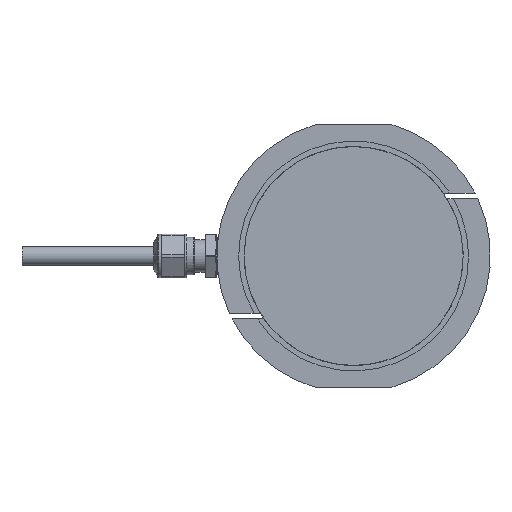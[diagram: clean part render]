
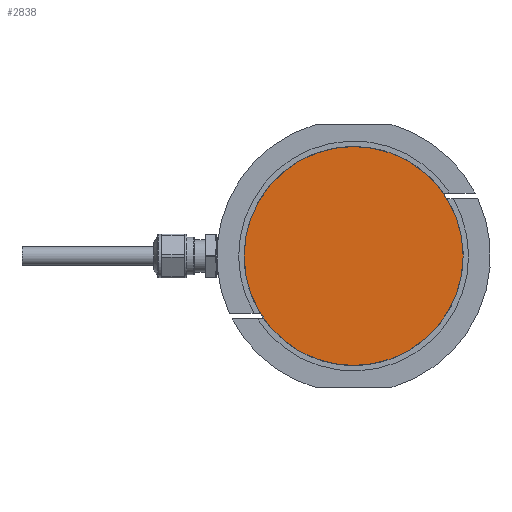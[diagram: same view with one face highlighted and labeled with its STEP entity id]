
A CAD part, front view. The second image highlights one B-rep face of the part: STEP entity #2838.
In plain terms, the highlighted planar face has unit normal (0, -1, 0).
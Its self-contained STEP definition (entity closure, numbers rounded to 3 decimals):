
#94=PLANE('',#3055);
#165=CIRCLE('',#3056,20.);
#371=FACE_OUTER_BOUND('',#546,.T.);
#546=EDGE_LOOP('',(#2239));
#1235=VERTEX_POINT('',#7667);
#1600=EDGE_CURVE('',#1235,#1235,#165,.T.);
#2239=ORIENTED_EDGE('',*,*,#1600,.T.);
#2838=ADVANCED_FACE('',(#371),#94,.T.);
#3055=AXIS2_PLACEMENT_3D('',#7666,#3595,#3596);
#3056=AXIS2_PLACEMENT_3D('',#7668,#3597,#3598);
#3595=DIRECTION('center_axis',(0.,-1.,0.));
#3596=DIRECTION('ref_axis',(1.,0.,0.));
#3597=DIRECTION('center_axis',(0.,-1.,0.));
#3598=DIRECTION('ref_axis',(1.,0.,0.));
#7666=CARTESIAN_POINT('Origin',(0.,0.,0.));
#7667=CARTESIAN_POINT('',(-20.,0.,0.));
#7668=CARTESIAN_POINT('Origin',(0.,0.,0.));
